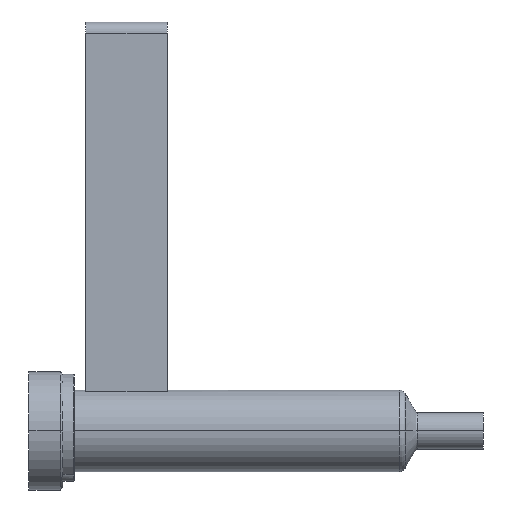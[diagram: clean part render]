
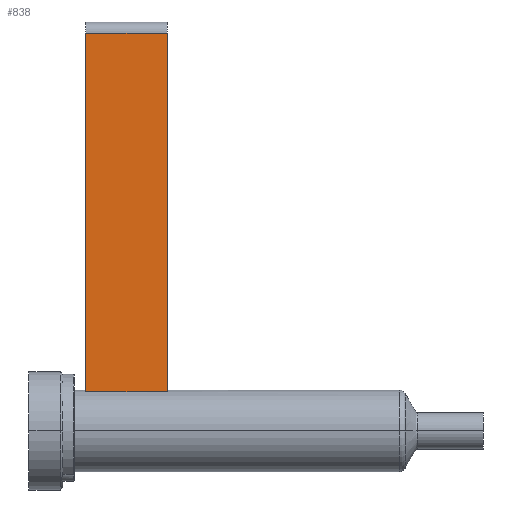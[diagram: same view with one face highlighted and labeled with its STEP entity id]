
A CAD part, left-side view. The second image highlights one B-rep face of the part: STEP entity #838.
In plain terms, the highlighted planar face has unit normal (-1, 0, 0).
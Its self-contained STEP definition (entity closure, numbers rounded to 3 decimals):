
#211=DIRECTION('',(0.,-1.,0.));
#212=VECTOR('',#211,18.);
#213=CARTESIAN_POINT('',(-2.5,-2.5,8.646));
#214=LINE('',#213,#212);
#295=DIRECTION('',(0.,0.,-1.));
#296=VECTOR('',#295,78.854);
#297=CARTESIAN_POINT('',(-2.5,-2.5,87.5));
#298=LINE('',#297,#296);
#322=DIRECTION('',(0.,0.,-1.));
#323=VECTOR('',#322,78.854);
#324=CARTESIAN_POINT('',(-2.5,-20.5,87.5));
#325=LINE('',#324,#323);
#335=DIRECTION('',(0.,1.,0.));
#336=VECTOR('',#335,18.);
#337=CARTESIAN_POINT('',(-2.5,-20.5,87.5));
#338=LINE('',#337,#336);
#401=CARTESIAN_POINT('',(-2.5,-2.5,87.5));
#403=VERTEX_POINT('',#401);
#405=CARTESIAN_POINT('',(-2.5,-20.5,87.5));
#407=VERTEX_POINT('',#405);
#408=CARTESIAN_POINT('',(-2.5,-2.5,8.646));
#409=VERTEX_POINT('',#408);
#460=CARTESIAN_POINT('',(-2.5,-20.5,8.646));
#462=VERTEX_POINT('',#460);
#824=CARTESIAN_POINT('',(-2.5,-2.5,0.));
#825=DIRECTION('',(-1.,0.,0.));
#826=DIRECTION('',(0.,0.,1.));
#827=AXIS2_PLACEMENT_3D('',#824,#825,#826);
#828=PLANE('',#827);
#829=ORIENTED_EDGE('',*,*,#691,.F.);
#831=ORIENTED_EDGE('',*,*,#830,.F.);
#833=ORIENTED_EDGE('',*,*,#832,.F.);
#835=ORIENTED_EDGE('',*,*,#834,.T.);
#836=EDGE_LOOP('',(#829,#831,#833,#835));
#837=FACE_OUTER_BOUND('',#836,.F.);
#838=ADVANCED_FACE('',(#837),#828,.T.);
#691=EDGE_CURVE('',#409,#462,#214,.T.);
#830=EDGE_CURVE('',#403,#409,#298,.T.);
#832=EDGE_CURVE('',#407,#403,#338,.T.);
#834=EDGE_CURVE('',#407,#462,#325,.T.);
